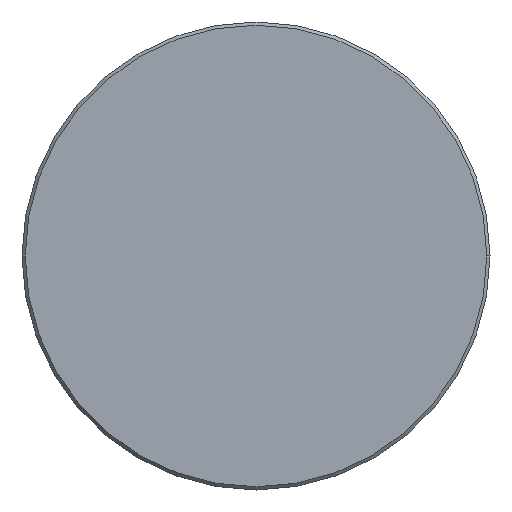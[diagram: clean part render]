
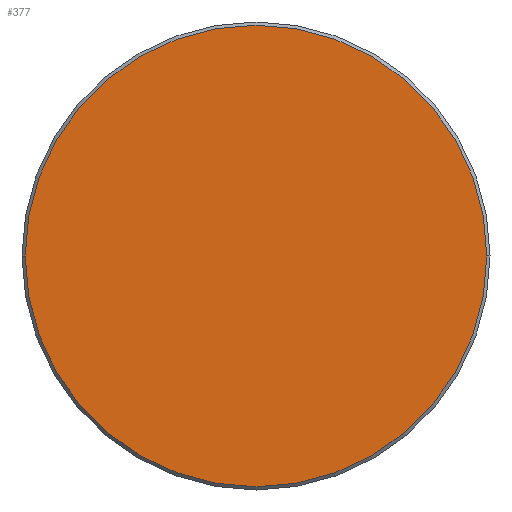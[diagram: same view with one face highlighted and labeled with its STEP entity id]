
A CAD part, left-side view. The second image highlights one B-rep face of the part: STEP entity #377.
In plain terms, the highlighted planar face has unit normal (-1, 0, 0).
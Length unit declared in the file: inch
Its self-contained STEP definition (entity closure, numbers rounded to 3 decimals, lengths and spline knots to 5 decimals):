
#4 = CIRCLE ( 'NONE', #122, 0.28506 ) ;
#21 = DIRECTION ( 'NONE',  ( 0., -1., 0. ) ) ;
#37 = VERTEX_POINT ( 'NONE', #65 ) ;
#65 = CARTESIAN_POINT ( 'NONE',  ( 0., -0.28506, 0. ) ) ;
#81 = CARTESIAN_POINT ( 'NONE',  ( 0., 0.28506, 0. ) ) ;
#85 = CARTESIAN_POINT ( 'NONE',  ( 0., 0., 0. ) ) ;
#86 = DIRECTION ( 'NONE',  ( 0., -1., 0. ) ) ;
#121 = DIRECTION ( 'NONE',  ( -1., 0., 0. ) ) ;
#122 = AXIS2_PLACEMENT_3D ( 'NONE', #319, #208, #173 ) ;
#127 = FACE_OUTER_BOUND ( 'NONE', #180, .T. ) ;
#169 = EDGE_CURVE ( 'NONE', #37, #234, #4, .T. ) ;
#173 = DIRECTION ( 'NONE',  ( 0., -1., 0. ) ) ;
#180 = EDGE_LOOP ( 'NONE', ( #240, #270 ) ) ;
#184 = CIRCLE ( 'NONE', #350, 0.28506 ) ;
#186 = EDGE_CURVE ( 'NONE', #234, #37, #184, .T. ) ;
#208 = DIRECTION ( 'NONE',  ( -1., 0., 0. ) ) ;
#211 = PLANE ( 'NONE',  #221 ) ;
#221 = AXIS2_PLACEMENT_3D ( 'NONE', #243, #121, #86 ) ;
#234 = VERTEX_POINT ( 'NONE', #81 ) ;
#240 = ORIENTED_EDGE ( 'NONE', *, *, #186, .T. ) ;
#243 = CARTESIAN_POINT ( 'NONE',  ( 0., 0., 0. ) ) ;
#270 = ORIENTED_EDGE ( 'NONE', *, *, #169, .T. ) ;
#319 = CARTESIAN_POINT ( 'NONE',  ( 0., 0., 0. ) ) ;
#350 = AXIS2_PLACEMENT_3D ( 'NONE', #85, #369, #21 ) ;
#369 = DIRECTION ( 'NONE',  ( -1., 0., 0. ) ) ;
#377 = ADVANCED_FACE ( 'NONE', ( #127 ), #211, .T. ) ;
